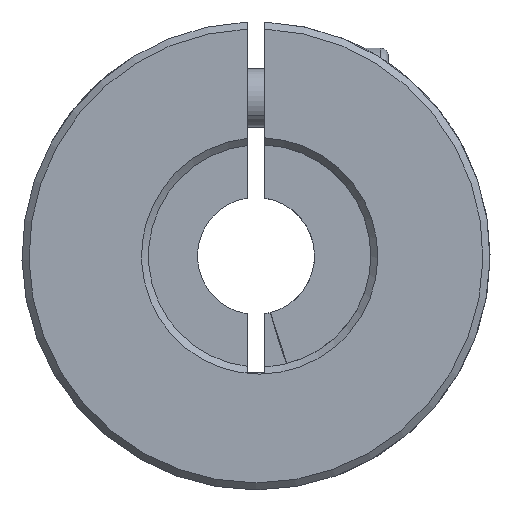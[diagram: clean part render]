
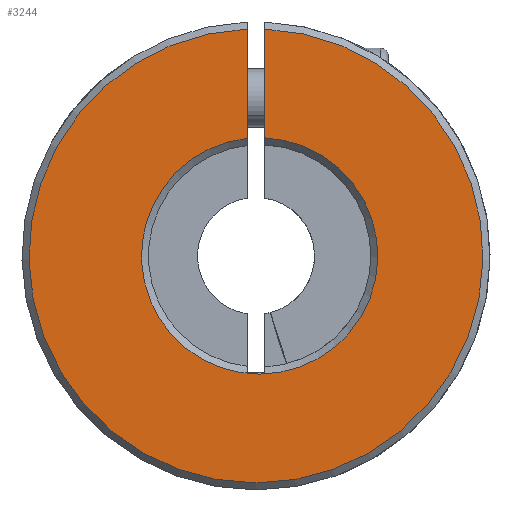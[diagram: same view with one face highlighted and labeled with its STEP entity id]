
A CAD part, front view. The second image highlights one B-rep face of the part: STEP entity #3244.
In plain terms, the highlighted planar face has unit normal (0, -1, 0).
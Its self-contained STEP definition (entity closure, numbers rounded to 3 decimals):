
#129 = DIRECTION ( 'NONE',  ( 0., 1., 0. ) ) ;
#222 = DIRECTION ( 'NONE',  ( 0., 0., 1. ) ) ;
#281 = PLANE ( 'NONE',  #4619 ) ;
#364 = VERTEX_POINT ( 'NONE', #3897 ) ;
#549 = AXIS2_PLACEMENT_3D ( 'NONE', #678, #4535, #5445 ) ;
#561 = ORIENTED_EDGE ( 'NONE', *, *, #5288, .T. ) ;
#678 = CARTESIAN_POINT ( 'NONE',  ( 0., -30., 0. ) ) ;
#691 = FACE_OUTER_BOUND ( 'NONE', #5356, .T. ) ;
#756 = VERTEX_POINT ( 'NONE', #1675 ) ;
#919 = CARTESIAN_POINT ( 'NONE',  ( 0.314, -30., -10.1 ) ) ;
#929 = CARTESIAN_POINT ( 'NONE',  ( 0.75, -30., -10. ) ) ;
#1067 = ORIENTED_EDGE ( 'NONE', *, *, #5178, .T. ) ;
#1191 = VERTEX_POINT ( 'NONE', #3659 ) ;
#1227 = ORIENTED_EDGE ( 'NONE', *, *, #1982, .T. ) ;
#1381 = EDGE_CURVE ( 'NONE', #1191, #5770, #1875, .T. ) ;
#1392 = LINE ( 'NONE', #929, #1939 ) ;
#1675 = CARTESIAN_POINT ( 'NONE',  ( 0.75, -30., 19.385 ) ) ;
#1875 = CIRCLE ( 'NONE', #3513, 10.1 ) ;
#1939 = VECTOR ( 'NONE', #4649, 1000. ) ;
#1982 = EDGE_CURVE ( 'NONE', #5770, #3892, #5247, .T. ) ;
#2025 = DIRECTION ( 'NONE',  ( 0., 0., 1. ) ) ;
#2059 = DIRECTION ( 'NONE',  ( 0., 1., 0. ) ) ;
#2159 = EDGE_CURVE ( 'NONE', #756, #1191, #1392, .T. ) ;
#2232 = DIRECTION ( 'NONE',  ( 0., 1., 0. ) ) ;
#2541 = CARTESIAN_POINT ( 'NONE',  ( 0.314, -30., 0. ) ) ;
#2703 = VECTOR ( 'NONE', #5893, 1000. ) ;
#3069 = CARTESIAN_POINT ( 'NONE',  ( -0.75, -30., -10. ) ) ;
#3122 = CARTESIAN_POINT ( 'NONE',  ( 0., -30., 0. ) ) ;
#3244 = ADVANCED_FACE ( 'NONE', ( #691 ), #281, .F. ) ;
#3513 = AXIS2_PLACEMENT_3D ( 'NONE', #4347, #129, #2025 ) ;
#3659 = CARTESIAN_POINT ( 'NONE',  ( 0.75, -30., 10.091 ) ) ;
#3664 = ORIENTED_EDGE ( 'NONE', *, *, #2159, .T. ) ;
#3765 = ORIENTED_EDGE ( 'NONE', *, *, #1381, .T. ) ;
#3892 = VERTEX_POINT ( 'NONE', #4226 ) ;
#3897 = CARTESIAN_POINT ( 'NONE',  ( -0.75, -30., 19.385 ) ) ;
#3909 = DIRECTION ( 'NONE',  ( 0., 0., 1. ) ) ;
#4226 = CARTESIAN_POINT ( 'NONE',  ( -0.75, -30., 10.044 ) ) ;
#4347 = CARTESIAN_POINT ( 'NONE',  ( 0.314, -30., 0. ) ) ;
#4378 = AXIS2_PLACEMENT_3D ( 'NONE', #2541, #2059, #3909 ) ;
#4535 = DIRECTION ( 'NONE',  ( 0., -1., 0. ) ) ;
#4619 = AXIS2_PLACEMENT_3D ( 'NONE', #3122, #2232, #222 ) ;
#4649 = DIRECTION ( 'NONE',  ( 0., 0., -1. ) ) ;
#4748 = CIRCLE ( 'NONE', #549, 19.4 ) ;
#5178 = EDGE_CURVE ( 'NONE', #364, #756, #4748, .T. ) ;
#5247 = CIRCLE ( 'NONE', #4378, 10.1 ) ;
#5288 = EDGE_CURVE ( 'NONE', #3892, #364, #5381, .T. ) ;
#5356 = EDGE_LOOP ( 'NONE', ( #3664, #3765, #1227, #561, #1067 ) ) ;
#5381 = LINE ( 'NONE', #3069, #2703 ) ;
#5445 = DIRECTION ( 'NONE',  ( 0., 0., 1. ) ) ;
#5770 = VERTEX_POINT ( 'NONE', #919 ) ;
#5893 = DIRECTION ( 'NONE',  ( 0., 0., 1. ) ) ;
